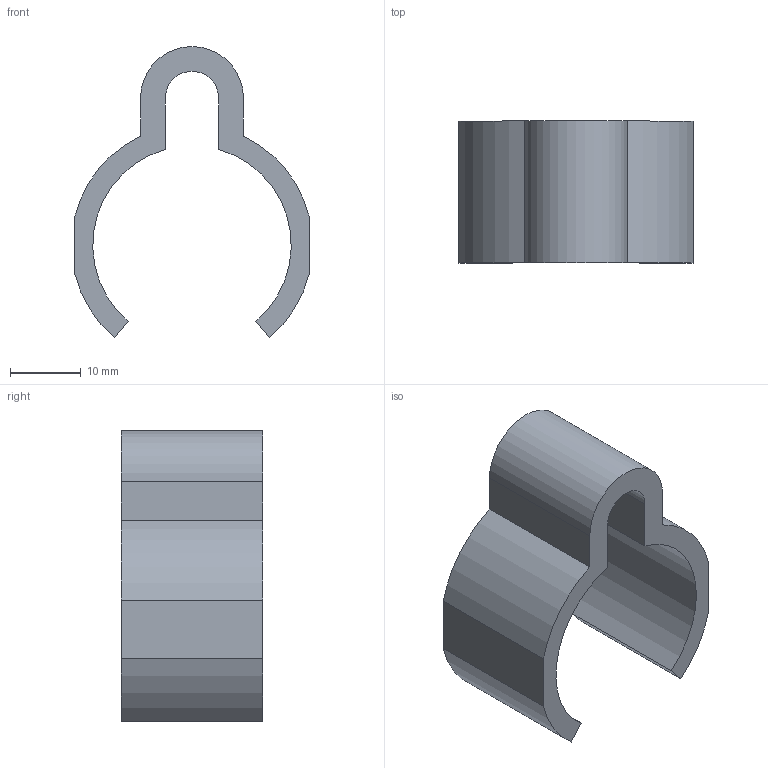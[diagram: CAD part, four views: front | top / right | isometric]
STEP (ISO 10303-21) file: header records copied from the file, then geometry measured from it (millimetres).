
FILE_DESCRIPTION (( 'STEP AP214' ), '1' );
FILE_NAME ('PJ-507.STEP', '2023-10-11T06:25:06', ( 'catia' ), ( 'HP Inc.' ), 'SwSTEP 2.0', 'SolidWorks 2021', '' );
FILE_SCHEMA (( 'AUTOMOTIVE_DESIGN' ));
Length unit declared in the file: millimetre
Products named in the file (1): PJ-507
Bounding box: 33 x 20 x 41.02 mm (x, y, z)
Volume: 5848.3 mm3; surface area: 4476.6 mm2
Topology: 1 solids, 1 shells, 19 faces, 51 edges, 34 vertices
Faces by surface type: plane 10, cylinder 9
Entity records: 637 total; most frequent: DIRECTION 109, CARTESIAN_POINT 105, ORIENTED_EDGE 102, EDGE_CURVE 51, AXIS2_PLACEMENT_3D 38, VERTEX_POINT 34, LINE 33, VECTOR 33
